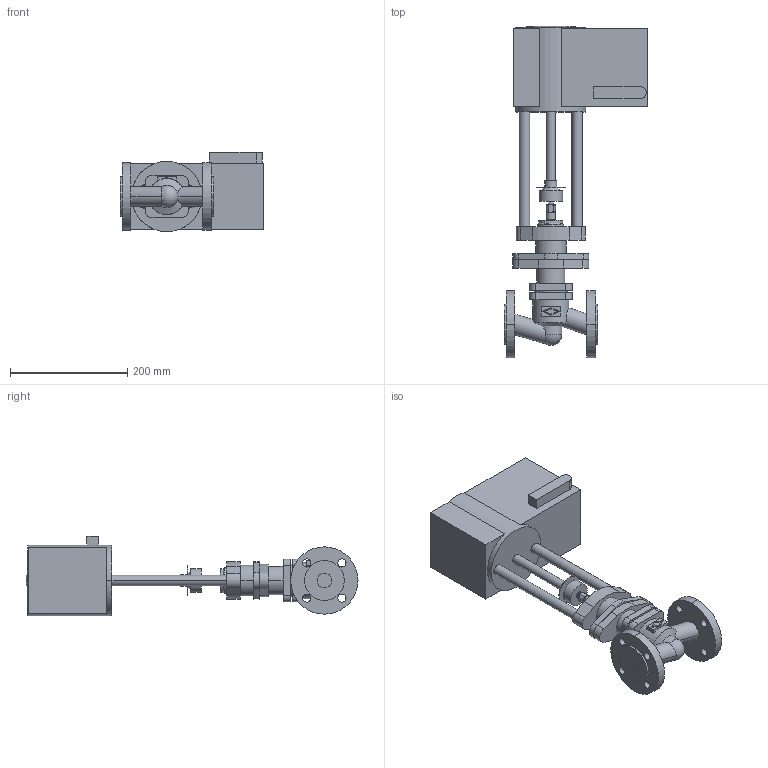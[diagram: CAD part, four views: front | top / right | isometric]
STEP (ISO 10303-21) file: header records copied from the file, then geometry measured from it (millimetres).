
FILE_DESCRIPTION(('Creo Elements/Direct Modeling STEP Export'),'2;1');
FILE_NAME('c000005070.stp','2013-06-04T 9:48:40',(''),(''),'Creo Elements/Direct Modeling STEP processor for AP203 (Solid Model)','Creo Elements/Direct Modeling 17.0D 15-Jul-2011 (C) Parametric Technology GmbH','');
FILE_SCHEMA(('CONFIG_CONTROL_DESIGN'));
Length unit declared in the file: millimetre
Products named in the file (5): 1; AnbauteileVentil; FR1.2
Assembly tree (2 placements, depth 2):
  1
  AnbauteileVentil
    AnbauteileVentil
  FR1.2
    FR1.2
Bounding box: 246 x 567.5 x 135.5 mm (x, y, z)
Volume: 4982066.7 mm3; surface area: 347111.7 mm2
Topology: 3 solids, 4 shells, 229 faces, 545 edges, 346 vertices
Faces by surface type: cylinder 100, plane 84, cone 26, torus 16, sphere 3
Entity records: 6920 total; most frequent: CARTESIAN_POINT 1379, ORIENTED_EDGE 1078, DIRECTION 1006, EDGE_CURVE 539, AXIS2_PLACEMENT_3D 380, VERTEX_POINT 346, EDGE_LOOP 275, VECTOR 246
